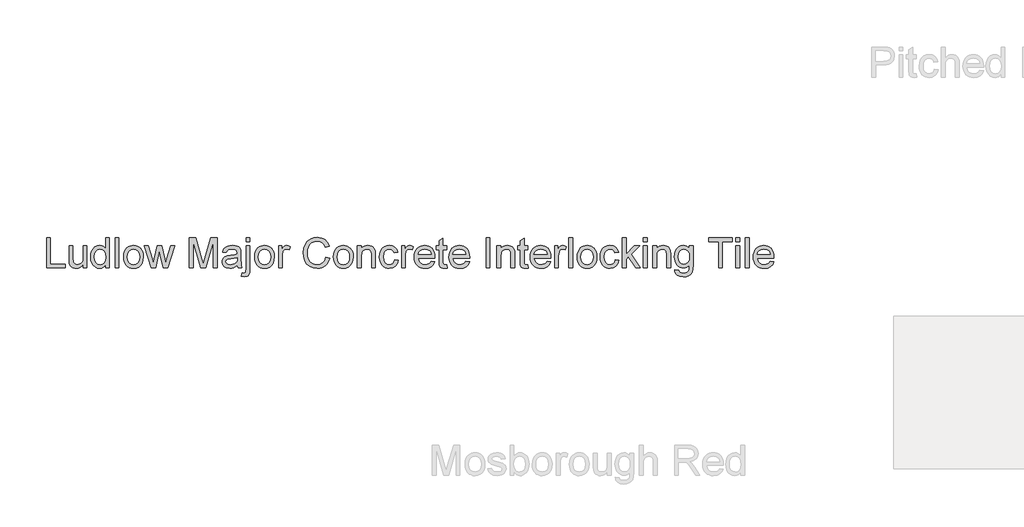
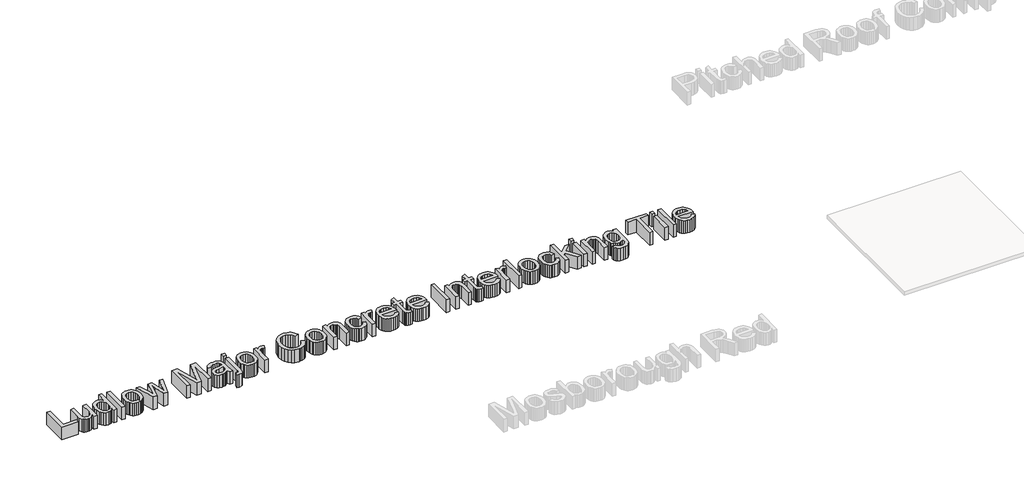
# One storey, part 4 of 6: 1 proxy.
"""IFC4 building model written with IfcOpenShell, lengths in millimetres."""

import ifcopenshell
import ifcopenshell.guid

model = None  # the IFC model being written
_history = None  # IfcOwnerHistory: only IFC2X3 demands one
_inside = {}  # id of a spatial element -> (the spatial element, [elements in it])
_under = {}  # id of a project, library or spatial element -> (it, [spatial elements below it])
_declared = {}  # id of a project -> (the project, [libraries it declares])
_typed = {}  # id of a type object -> (the type object, [elements of that type])
_made_of = {}  # id of a material, layer set ... -> (it, [elements and type objects made of it])


def new_model(schema):
    """Start an empty IFC model of exactly this schema.

    Asked for "IFC4X3", IfcOpenShell would pick the latest addendum, in which some entities
    have other attributes; the version numbers below select the first issue.
    IFC2X3 requires an IfcOwnerHistory on every rooted entity: one is made here for all.
    """
    global model, _history
    if schema == "IFC4X3":
        model = ifcopenshell.file(schema_version=(4, 3, 0, 0))
    else:
        model = ifcopenshell.file(schema=schema)
    _inside.clear()
    _under.clear()
    _declared.clear()
    _typed.clear()
    _made_of.clear()
    _history = None
    if model.schema == "IFC2X3":
        org = make("IfcOrganization", Name="unknown")
        user = make(
            "IfcPersonAndOrganization",
            ThePerson=make("IfcPerson", FamilyName="unknown"),
            TheOrganization=org,
        )
        app = make(
            "IfcApplication",
            ApplicationDeveloper=org,
            Version="unknown",
            ApplicationFullName="unknown",
            ApplicationIdentifier="unknown",
        )
        _history = make(
            "IfcOwnerHistory",
            OwningUser=user,
            OwningApplication=app,
            ChangeAction="ADDED",
            CreationDate=0,
        )
    return model


def make(cls, **values):
    """One entity of the class cls with the attributes given. An attribute that is None is left unset."""
    return model.create_entity(
        cls, **{name: value for name, value in values.items() if value is not None}
    )


def rooted(cls, **values):
    """An entity with a GlobalId (a new one), such as an element, a storey or a relation."""
    return make(cls, GlobalId=ifcopenshell.guid.new(), OwnerHistory=_history, **values)


def si_unit(unit_type, name, prefix=None):
    """IfcSIUnit, for example si_unit("LENGTHUNIT", "METRE", prefix="MILLI")."""
    return make("IfcSIUnit", UnitType=unit_type, Prefix=prefix, Name=name)


def assignment(units):
    """IfcUnitAssignment: the units of a project."""
    return None if units is None else make("IfcUnitAssignment", Units=units)


def point(xyz):
    """IfcCartesianPoint."""
    return None if xyz is None else make("IfcCartesianPoint", Coordinates=xyz)


def direction(xyz):
    """IfcDirection."""
    return None if xyz is None else make("IfcDirection", DirectionRatios=xyz)


def frame(location, z_axis=None, x_axis=None):
    """IfcAxis2Placement3D, a coordinate frame: its origin and axes. An axis left out is left unset."""
    return make(
        "IfcAxis2Placement3D",
        Location=point(location),
        Axis=direction(z_axis),
        RefDirection=direction(x_axis),
    )


def origin():
    """The frame at (0, 0, 0) with its axes left unset."""
    return frame((0.0, 0.0, 0.0))


def place(relative_to, where):
    """IfcLocalPlacement: puts the frame where relative to a parent placement (None: the world)."""
    return make(
        "IfcLocalPlacement", PlacementRelTo=relative_to, RelativePlacement=where
    )


def context(
    kind, dimensions, precision=None, world=None, true_north=None, identifier=None
):
    """IfcGeometricRepresentationContext, for example the 3D "Model" context."""
    return make(
        "IfcGeometricRepresentationContext",
        ContextIdentifier=identifier,
        ContextType=kind,
        CoordinateSpaceDimension=dimensions,
        Precision=precision,
        WorldCoordinateSystem=world,
        TrueNorth=true_north,
    )


def project(units=None, contexts=None):
    """IfcProject with its units and contexts."""
    return rooted(
        "IfcProject",
        Name="project",
        RepresentationContexts=contexts,
        UnitsInContext=assignment(units),
    )


def spatial(cls, under=None, at=None, **own):
    """A site, building, storey or space (cls), placed at a placement, below another one or the project."""
    s = rooted(cls, ObjectPlacement=at, **own)
    if under is not None:
        _under.setdefault(under.id(), (under, []))[1].append(s)
    return s


def polyline(points):
    """IfcPolyline through the points."""
    return make("IfcPolyline", Points=[point(p) for p in points])


def outline(outer, holes=None, kind="AREA"):
    """IfcArbitraryClosedProfileDef: a profile drawn as a closed curve; with holes, ...WithVoids."""
    if holes is None:
        return make("IfcArbitraryClosedProfileDef", ProfileType=kind, OuterCurve=outer)
    return make(
        "IfcArbitraryProfileDefWithVoids",
        ProfileType=kind,
        OuterCurve=outer,
        InnerCurves=holes,
    )


def extrude(swept, where, along, depth):
    """IfcExtrudedAreaSolid: the profile swept, set in the frame where, extruded along a direction by depth."""
    return make(
        "IfcExtrudedAreaSolid",
        SweptArea=swept,
        Position=where,
        ExtrudedDirection=direction(along),
        Depth=depth,
    )


def shape(context_of_items, identifier, shape_type, items):
    """IfcShapeRepresentation: the items that make up one representation, for example the "Body"."""
    return make(
        "IfcShapeRepresentation",
        ContextOfItems=context_of_items,
        RepresentationIdentifier=identifier,
        RepresentationType=shape_type,
        Items=items,
    )


def made_of(thing, what):
    """Note that an element or type object is made of a material, layer set ...; save() writes the relation."""
    if what is not None:
        _made_of.setdefault(what.id(), (what, []))[1].append(thing)
    return thing


def element(
    cls,
    number,
    at=None,
    inside=None,
    cuts=None,
    type_object=None,
    material=None,
    context=None,
    identifier="Body",
    shape_type=None,
    held_by="IfcProductDefinitionShape",
    body=None,
    shapes=None,
    **own,
):
    """One element of the class cls, such as IfcWall. Its Tag is "e" and its number.

    at: its placement. inside: the storey or other place that contains it. cuts: it is an
    opening in that element (IfcRelVoidsElement). A single representation is given by context,
    identifier, shape_type and body (its items); several are given by shapes. held_by: the class
    of the entity that holds the representations. save() writes the other relations.
    """
    e = rooted(cls, Tag="e%d" % number, ObjectPlacement=at, **own)
    if body is not None:
        shapes = [shape(context, identifier, shape_type, body)]
    if shapes is not None:
        e.Representation = make(held_by, Representations=shapes)
    if inside is not None:
        _inside.setdefault(inside.id(), (inside, []))[1].append(e)
    if cuts is not None:
        rooted(
            "IfcRelVoidsElement", RelatingBuildingElement=cuts, RelatedOpeningElement=e
        )
    if type_object is not None:
        _typed.setdefault(type_object.id(), (type_object, []))[1].append(e)
    return made_of(e, material)


def aggregate(whole, parts):
    """IfcRelAggregates: a whole, such as a stair, and the parts it consists of."""
    return rooted("IfcRelAggregates", RelatingObject=whole, RelatedObjects=parts)


def save(model, path):
    """Write the relations noted so far, then the file.

    IfcRelAggregates (storeys below a building ...), IfcRelContainedInSpatialStructure (elements
    in a storey), IfcRelDefinesByType, IfcRelAssociatesMaterial and IfcRelDeclares: one each for
    every whole, place, type object, material and project.
    """
    for whole, parts in _under.values():
        aggregate(whole, parts)
    for where, things in _inside.values():
        rooted(
            "IfcRelContainedInSpatialStructure",
            RelatedElements=things,
            RelatingStructure=where,
        )
    for kind, things in _typed.values():
        rooted("IfcRelDefinesByType", RelatedObjects=things, RelatingType=kind)
    for what, things in _made_of.values():
        rooted("IfcRelAssociatesMaterial", RelatedObjects=things, RelatingMaterial=what)
    for by, libraries in _declared.values():
        rooted("IfcRelDeclares", RelatingContext=by, RelatedDefinitions=libraries)
    model.write(path)


model = new_model("IFC4")

# Units and contexts
model_context = context("Model", 3, world=origin())
ifc_project = project(units=[si_unit("LENGTHUNIT", "METRE", prefix="MILLI")], contexts=[model_context])

# Site, building, storey
site = spatial("IfcSite", under=ifc_project)
building = spatial("IfcBuilding", under=site)
storey = spatial("IfcBuildingStorey", under=building, Name="Marley Concrete Interlocking", Elevation=3000.0)

# Proxy
placement = place(None, origin())
element("IfcBuildingElementProxy", 1, Name="600mm Arial", ObjectType="600mm Arial", at=placement, inside=storey, context=model_context, shape_type="SweptSolid", body=[
    extrude(outline(polyline([(-19505.0201372, 5396.4491151), (-19505.0201372, 5691.8337304), (-19468.0970603, 5691.8337304), (-19468.0970603, 5433.372192), (-19320.4047526, 5433.372192), (-19320.4047526, 5396.4491151), (-19505.0201372, 5396.4491151)])), frame((0.0, 0.0, 3000.0), z_axis=(0.0, 0.0, 1.0), x_axis=(1.0, 0.0, 0.0)), (0.0, 0.0, 1.0), 150.0),
    extrude(outline(polyline([(-19145.0201372, 5396.4491151), (-19145.0201372, 5433.7327689), (-19158.3795122, 5415.4019396), (-19173.9384064, 5402.3084901), (-19191.6968199, 5394.4524203), (-19211.6547526, 5391.8337304), (-19229.6385266, 5393.6726727), (-19246.3783103, 5399.1894997), (-19260.4227814, 5407.4827689), (-19270.320618, 5417.6510381), (-19281.3182141, 5444.8385381), (-19283.4816756, 5479.1654612), (-19283.4816756, 5613.372192), (-19246.5585987, 5613.372192), (-19246.5585987, 5496.5452689), (-19244.3230218, 5458.9010381), (-19238.9414112, 5446.3439468), (-19229.7196564, 5436.7976727), (-19217.2707381, 5430.7670237), (-19202.2076372, 5428.7568074), (-19186.2791516, 5430.8120958), (-19171.3783103, 5436.9779612), (-19159.0916516, 5446.6864949), (-19151.0057141, 5459.3697881), (-19146.5165314, 5476.7405814), (-19145.0201372, 5500.5116151), (-19145.0201372, 5613.372192), (-19108.0970603, 5613.372192), (-19108.0970603, 5396.4491151), (-19145.0201372, 5396.4491151)])), frame((0.0, 0.0, 3000.0), z_axis=(0.0, 0.0, 1.0), x_axis=(1.0, 0.0, 0.0)), (0.0, 0.0, 1.0), 150.0),
    extrude(outline(polyline([(-18923.4816756, 5396.4491151), (-18923.4816756, 5431.2808458), (-18934.5288511, 5414.0227328), (-18947.9107622, 5401.6955093), (-18963.6274088, 5394.2991752), (-18981.678791, 5391.8337304), (-19005.5489833, 5395.403442), (-19027.3999449, 5406.1125766), (-19045.897541, 5423.2129372), (-19059.7076372, 5445.9563266), (-19068.3073968, 5473.4232737), (-19071.1739833, 5504.6943074), (-19068.5327574, 5535.5777208), (-19060.6090795, 5563.4683458), (-19047.4119641, 5586.7796439), (-19028.9504256, 5603.9250766), (-19006.6216997, 5614.4719516), (-18981.8230218, 5617.9875766), (-18963.758118, 5615.4725526), (-18947.7845603, 5607.9274804), (-18934.2448968, 5596.3619756), (-18923.4816756, 5581.7856535), (-18923.4816756, 5691.8337304), (-18886.5585987, 5691.8337304), (-18886.5585987, 5396.4491151), (-18923.4816756, 5396.4491151)]), holes=[polyline([(-19034.2509064, 5504.8385381), (-19030.086243, 5471.4401006), (-19017.5922526, 5447.6870958), (-18999.4372045, 5433.4893795), (-18978.289368, 5428.7568074), (-18957.1505458, 5433.2730333), (-18939.4552333, 5446.8217112), (-18927.4750651, 5469.6552449), (-18923.4816756, 5502.0260381), (-18927.5471805, 5537.4166631), (-18939.7436949, 5561.9539227), (-18957.8897285, 5576.2868554), (-18979.803791, 5581.0644997), (-19001.1679737, 5576.4761583), (-19018.6739833, 5562.7111343), (-19030.3566756, 5539.0663026), (-19034.2509064, 5504.8385381)])]), frame((0.0, 0.0, 3000.0), z_axis=(0.0, 0.0, 1.0), x_axis=(1.0, 0.0, 0.0)), (0.0, 0.0, 1.0), 150.0),
    extrude(outline(polyline([(-18831.1739833, 5396.4491151), (-18831.1739833, 5691.8337304), (-18794.2509064, 5691.8337304), (-18794.2509064, 5396.4491151), (-18831.1739833, 5396.4491151)])), frame((0.0, 0.0, 3000.0), z_axis=(0.0, 0.0, 1.0), x_axis=(1.0, 0.0, 0.0)), (0.0, 0.0, 1.0), 150.0),
    extrude(outline(polyline([(-18748.0970603, 5504.9106535), (-18746.1003655, 5533.004103), (-18740.1102814, 5557.2123362), (-18730.1268079, 5577.535353), (-18716.1499449, 5593.9731535), (-18702.0784305, 5604.4794636), (-18686.5465795, 5611.9839708), (-18669.554392, 5616.4866752), (-18651.101868, 5617.9875766), (-18630.7315254, 5616.1599023), (-18612.3128055, 5610.6768795), (-18595.8457081, 5601.5385081), (-18581.3302333, 5588.7447881), (-18569.4830278, 5572.7284119), (-18561.0207381, 5553.9220718), (-18555.9433643, 5532.3257677), (-18554.2509064, 5507.9394997), (-18557.2436949, 5470.637817), (-18566.2220603, 5442.2423843), (-18580.9245843, 5420.9773602), (-18601.0898487, 5405.0669035), (-18625.0411708, 5395.1420237), (-18651.101868, 5391.8337304), (-18671.7696865, 5393.6546439), (-18690.3596805, 5399.1173843), (-18706.8718499, 5408.2219516), (-18721.3061949, 5420.9683458), (-18733.0271985, 5437.1402208), (-18741.3993439, 5456.5212304), (-18746.4226312, 5479.1113747), (-18748.0970603, 5504.9106535)]), holes=[polyline([(-18711.1739833, 5504.9827689), (-18706.9011468, 5471.5663026), (-18694.0826372, 5447.7592112), (-18674.7917718, 5433.5074083), (-18651.101868, 5428.7568074), (-18627.5201372, 5433.5344516), (-18608.2653295, 5447.8673843), (-18595.4468199, 5471.9899804), (-18591.1739833, 5506.1366151), (-18595.4738631, 5538.5795237), (-18608.3735026, 5562.0620958), (-18627.6553535, 5576.3138987), (-18651.101868, 5581.0644997), (-18674.7917718, 5576.3319276), (-18694.0826372, 5562.1342112), (-18706.9011468, 5538.3812064), (-18711.1739833, 5504.9827689)])]), frame((0.0, 0.0, 3000.0), z_axis=(0.0, 0.0, 1.0), x_axis=(1.0, 0.0, 0.0)), (0.0, 0.0, 1.0), 150.0),
    extrude(outline(polyline([(-18476.726868, 5396.4491151), (-18542.7124449, 5613.372192), (-18504.3470603, 5613.372192), (-18466.9191756, 5486.809692), (-18455.741291, 5441.5933458), (-18446.5826372, 5485.1510381), (-18416.7989833, 5613.372192), (-18372.8085987, 5613.372192), (-18343.1691756, 5485.5116151), (-18335.0201372, 5446.0644997), (-18323.3374449, 5487.6750766), (-18285.8374449, 5613.372192), (-18247.3278295, 5613.372192), (-18313.8182141, 5396.4491151), (-18358.4576372, 5396.4491151), (-18386.7989833, 5523.6606535), (-18395.0201372, 5563.3241151), (-18431.5826372, 5396.4491151), (-18476.726868, 5396.4491151)])), frame((0.0, 0.0, 3000.0), z_axis=(0.0, 0.0, 1.0), x_axis=(1.0, 0.0, 0.0)), (0.0, 0.0, 1.0), 150.0),
    extrude(outline(polyline([(-18101.9432141, 5396.4491151), (-18101.9432141, 5691.8337304), (-18038.4095603, 5691.8337304), (-17977.976868, 5483.6366151), (-17965.789368, 5440.1510381), (-17952.5922526, 5487.2423843), (-17893.1691756, 5691.8337304), (-17829.6355218, 5691.8337304), (-17829.6355218, 5396.4491151), (-17866.5585987, 5396.4491151), (-17866.5585987, 5654.9106535), (-17940.7653295, 5396.4491151), (-17990.8134064, 5396.4491151), (-18065.0201372, 5654.9106535), (-18065.0201372, 5396.4491151), (-18101.9432141, 5396.4491151)])), frame((0.0, 0.0, 3000.0), z_axis=(0.0, 0.0, 1.0), x_axis=(1.0, 0.0, 0.0)), (0.0, 0.0, 1.0), 150.0),
    extrude(outline(polyline([(-17631.1739833, 5424.1414227), (-17648.8152093, 5409.0152208), (-17666.9792718, 5399.1173843), (-17686.0808343, 5393.6546439), (-17706.5345603, 5391.8337304), (-17737.3909305, 5396.2147401), (-17760.1523487, 5409.3577689), (-17774.1878055, 5429.3157016), (-17778.866291, 5454.1414227), (-17777.0994641, 5469.4479131), (-17771.7989833, 5483.3481535), (-17763.6229016, 5495.247192), (-17753.2292718, 5504.5500766), (-17727.3759064, 5516.6654612), (-17695.428791, 5522.2183458), (-17657.6763872, 5528.059692), (-17631.3903295, 5534.9106535), (-17631.1739833, 5543.1318074), (-17633.7160506, 5559.6101727), (-17641.3422526, 5570.3914227), (-17658.397541, 5578.3962304), (-17682.1595603, 5581.0644997), (-17704.1547526, 5579.2886583), (-17719.5153295, 5573.9611343), (-17729.9900891, 5564.1083699), (-17737.3278295, 5548.7568074), (-17774.2509064, 5553.372192), (-17767.8416516, 5573.5644997), (-17758.2773487, 5589.4298843), (-17744.6655699, 5601.5632977), (-17726.1138872, 5610.559692), (-17703.4245843, 5616.1306054), (-17677.3999449, 5617.9875766), (-17652.4390074, 5616.3469516), (-17632.6523487, 5611.4250766), (-17617.7334785, 5604.0242352), (-17607.3759064, 5594.9467112), (-17600.506916, 5583.7237545), (-17596.053791, 5569.8866151), (-17594.2509064, 5537.5789227), (-17594.2509064, 5491.6414227), (-17592.3759064, 5427.4947881), (-17585.0201372, 5396.4491151), (-17621.9432141, 5396.4491151), (-17631.1739833, 5424.1414227)]), holes=[polyline([(-17631.1739833, 5497.9875766), (-17690.741291, 5486.6654612), (-17722.508118, 5480.6798843), (-17736.8951372, 5470.9443074), (-17741.9432141, 5456.7375766), (-17739.1938151, 5445.7580093), (-17730.945618, 5436.7616151), (-17717.3789112, 5430.7580093), (-17698.6739833, 5428.7568074), (-17678.8422526, 5430.965341), (-17661.3182141, 5437.590942), (-17647.1114833, 5447.3535622), (-17637.2316756, 5458.9731535), (-17632.850666, 5470.9443074), (-17631.3903295, 5487.5308458), (-17631.1739833, 5497.9875766)])]), frame((0.0, 0.0, 3000.0), z_axis=(0.0, 0.0, 1.0), x_axis=(1.0, 0.0, 0.0)), (0.0, 0.0, 1.0), 150.0),
    extrude(outline(polyline([(-17589.9960987, 5313.2279612), (-17582.2076372, 5348.3481535), (-17565.2605218, 5345.6798843), (-17555.6421324, 5347.5098122), (-17548.8542718, 5352.9995958), (-17544.8248247, 5365.809091), (-17543.4816756, 5389.5981535), (-17543.4816756, 5613.372192), (-17506.5585987, 5613.372192), (-17506.5585987, 5384.8385381), (-17509.1727814, 5350.9443074), (-17517.0153295, 5329.1654612), (-17524.7497045, 5320.2366752), (-17534.6835987, 5313.8589708), (-17561.1499449, 5308.7568074), (-17589.9960987, 5313.2279612)])), frame((0.0, 0.0, 3000.0), z_axis=(0.0, 0.0, 1.0), x_axis=(1.0, 0.0, 0.0)), (0.0, 0.0, 1.0), 150.0),
    extrude(outline(polyline([(-17543.4816756, 5654.9106535), (-17543.4816756, 5691.8337304), (-17506.5585987, 5691.8337304), (-17506.5585987, 5654.9106535), (-17543.4816756, 5654.9106535)])), frame((0.0, 0.0, 3000.0), z_axis=(0.0, 0.0, 1.0), x_axis=(1.0, 0.0, 0.0)), (0.0, 0.0, 1.0), 150.0),
    extrude(outline(polyline([(-17460.4047526, 5504.9106535), (-17458.4080579, 5533.004103), (-17452.4179737, 5557.2123362), (-17442.4345002, 5577.535353), (-17428.4576372, 5593.9731535), (-17414.3861228, 5604.4794636), (-17398.8542718, 5611.9839708), (-17381.8620843, 5616.4866752), (-17363.4095603, 5617.9875766), (-17343.0392177, 5616.1599023), (-17324.6204978, 5610.6768795), (-17308.1534004, 5601.5385081), (-17293.6379256, 5588.7447881), (-17281.7907201, 5572.7284119), (-17273.3284305, 5553.9220718), (-17268.2510567, 5532.3257677), (-17266.5585987, 5507.9394997), (-17269.5513872, 5470.637817), (-17278.5297526, 5442.2423843), (-17293.2322766, 5420.9773602), (-17313.397541, 5405.0669035), (-17337.3488631, 5395.1420237), (-17363.4095603, 5391.8337304), (-17384.0773788, 5393.6546439), (-17402.6673728, 5399.1173843), (-17419.1795422, 5408.2219516), (-17433.6138872, 5420.9683458), (-17445.3348908, 5437.1402208), (-17453.7070362, 5456.5212304), (-17458.7303235, 5479.1113747), (-17460.4047526, 5504.9106535)]), holes=[polyline([(-17423.4816756, 5504.9827689), (-17419.2088391, 5471.5663026), (-17406.3903295, 5447.7592112), (-17387.0994641, 5433.5074083), (-17363.4095603, 5428.7568074), (-17339.8278295, 5433.5344516), (-17320.5730218, 5447.8673843), (-17307.7545122, 5471.9899804), (-17303.4816756, 5506.1366151), (-17307.7815555, 5538.5795237), (-17320.6811949, 5562.0620958), (-17339.9630458, 5576.3138987), (-17363.4095603, 5581.0644997), (-17387.0994641, 5576.3319276), (-17406.3903295, 5562.1342112), (-17419.2088391, 5538.3812064), (-17423.4816756, 5504.9827689)])]), frame((0.0, 0.0, 3000.0), z_axis=(0.0, 0.0, 1.0), x_axis=(1.0, 0.0, 0.0)), (0.0, 0.0, 1.0), 150.0),
    extrude(outline(polyline([(-17225.0201372, 5396.4491151), (-17225.0201372, 5613.372192), (-17192.7124449, 5613.372192), (-17192.7124449, 5581.2808458), (-17180.7773487, 5599.8866151), (-17169.7797526, 5610.8481535), (-17158.7460987, 5616.2027208), (-17146.7028295, 5617.9875766), (-17128.3134064, 5615.1390189), (-17109.6355218, 5606.5933458), (-17121.9672526, 5573.4923843), (-17134.9480218, 5579.1714708), (-17147.928791, 5581.0644997), (-17158.9534305, 5579.2435862), (-17168.8061949, 5573.7808458), (-17176.7659305, 5565.090942), (-17182.1114833, 5553.5885381), (-17186.600666, 5532.9635381), (-17188.0970603, 5510.4635381), (-17188.0970603, 5396.4491151), (-17225.0201372, 5396.4491151)])), frame((0.0, 0.0, 3000.0), z_axis=(0.0, 0.0, 1.0), x_axis=(1.0, 0.0, 0.0)), (0.0, 0.0, 1.0), 150.0),
    extrude(outline(polyline([(-16758.866291, 5501.4491151), (-16721.9432141, 5491.9298843), (-16729.249404, 5468.9678951), (-16738.9804737, 5448.9040429), (-16751.1364232, 5431.7383278), (-16765.7172526, 5417.4707497), (-16782.3939353, 5406.2545538), (-16800.8374449, 5398.2429852), (-16821.0477814, 5393.4360441), (-16843.0249449, 5391.8337304), (-16885.8524689, 5396.6834901), (-16919.8638872, 5411.2327689), (-16945.9335987, 5434.9767593), (-16964.9360026, 5467.4106535), (-16976.5375651, 5505.5416631), (-16980.4047526, 5546.3769997), (-16976.0327574, 5589.4479131), (-16962.9167718, 5626.6414227), (-16941.741892, 5656.7766391), (-16913.1932141, 5678.6726727), (-16879.335041, 5692.0050045), (-16842.2316756, 5696.4491151), (-16801.7479016, 5690.6979131), (-16784.1359725, 5683.5089107), (-16768.2773487, 5673.4443074), (-16754.4334485, 5660.7700285), (-16742.8656901, 5645.7519997), (-16726.5585987, 5608.684692), (-16763.4816756, 5599.8866151), (-16776.2821564, 5626.8126968), (-16793.7701372, 5645.2832497), (-16816.1619641, 5655.965341), (-16843.6739833, 5659.5260381), (-16875.3867237, 5655.5777208), (-16901.4384064, 5643.7327689), (-16921.2070362, 5625.2351727), (-16934.070618, 5601.3289227), (-16941.1289112, 5574.3036824), (-16943.4816756, 5546.4491151), (-16940.6962189, 5512.3385381), (-16932.3398487, 5482.8433458), (-16918.0970603, 5459.090341), (-16897.6523487, 5442.2063266), (-16873.1421324, 5432.1191872), (-16846.7028295, 5428.7568074), (-16815.882517, 5433.3361343), (-16790.2004256, 5447.0741151), (-16770.8104016, 5469.8265189), (-16758.866291, 5501.4491151)])), frame((0.0, 0.0, 3000.0), z_axis=(0.0, 0.0, 1.0), x_axis=(1.0, 0.0, 0.0)), (0.0, 0.0, 1.0), 150.0),
    extrude(outline(polyline([(-16685.0201372, 5504.9106535), (-16683.0234425, 5533.004103), (-16677.0333583, 5557.2123362), (-16667.0498848, 5577.535353), (-16653.0730218, 5593.9731535), (-16639.0015074, 5604.4794636), (-16623.4696564, 5611.9839708), (-16606.4774689, 5616.4866752), (-16588.0249449, 5617.9875766), (-16567.6546023, 5616.1599023), (-16549.2358824, 5610.6768795), (-16532.768785, 5601.5385081), (-16518.2533103, 5588.7447881), (-16506.4061047, 5572.7284119), (-16497.9438151, 5553.9220718), (-16492.8664413, 5532.3257677), (-16491.1739833, 5507.9394997), (-16494.1667718, 5470.637817), (-16503.1451372, 5442.2423843), (-16517.8476612, 5420.9773602), (-16538.0129256, 5405.0669035), (-16561.9642478, 5395.1420237), (-16588.0249449, 5391.8337304), (-16608.6927634, 5393.6546439), (-16627.2827574, 5399.1173843), (-16643.7949268, 5408.2219516), (-16658.2292718, 5420.9683458), (-16669.9502754, 5437.1402208), (-16678.3224208, 5456.5212304), (-16683.3457081, 5479.1113747), (-16685.0201372, 5504.9106535)]), holes=[polyline([(-16648.0970603, 5504.9827689), (-16643.8242237, 5471.5663026), (-16631.0057141, 5447.7592112), (-16611.7148487, 5433.5074083), (-16588.0249449, 5428.7568074), (-16564.4432141, 5433.5344516), (-16545.1884064, 5447.8673843), (-16532.3698968, 5471.9899804), (-16528.0970603, 5506.1366151), (-16532.3969401, 5538.5795237), (-16545.2965795, 5562.0620958), (-16564.5784305, 5576.3138987), (-16588.0249449, 5581.0644997), (-16611.7148487, 5576.3319276), (-16631.0057141, 5562.1342112), (-16643.8242237, 5538.3812064), (-16648.0970603, 5504.9827689)])]), frame((0.0, 0.0, 3000.0), z_axis=(0.0, 0.0, 1.0), x_axis=(1.0, 0.0, 0.0)), (0.0, 0.0, 1.0), 150.0),
    extrude(outline(polyline([(-16449.6355218, 5396.4491151), (-16449.6355218, 5613.372192), (-16412.7124449, 5613.372192), (-16412.7124449, 5583.0837304), (-16399.8849208, 5598.3541631), (-16384.4792718, 5609.2616151), (-16366.4954978, 5615.8060862), (-16345.9335987, 5617.9875766), (-16327.7334785, 5616.2297641), (-16311.0658103, 5610.9563266), (-16297.1655699, 5602.825317), (-16287.2677333, 5592.4947881), (-16276.1980218, 5565.3433458), (-16274.2509064, 5529.6462304), (-16274.2509064, 5396.4491151), (-16311.1739833, 5396.4491151), (-16311.1739833, 5524.6702689), (-16315.428791, 5557.3385381), (-16321.3152093, 5567.0651006), (-16330.4648487, 5574.6101727), (-16342.1926131, 5579.4509179), (-16355.8134064, 5581.0644997), (-16377.4390074, 5577.4407016), (-16395.8735026, 5566.5693074), (-16403.2405398, 5557.6946078), (-16408.5027093, 5545.5657016), (-16412.7124449, 5511.5452689), (-16412.7124449, 5396.4491151), (-16449.6355218, 5396.4491151)])), frame((0.0, 0.0, 3000.0), z_axis=(0.0, 0.0, 1.0), x_axis=(1.0, 0.0, 0.0)), (0.0, 0.0, 1.0), 150.0),
    extrude(outline(polyline([(-16085.0201372, 5474.9106535), (-16048.0970603, 5470.2952689), (-16058.3915314, 5437.4557256), (-16077.7364833, 5412.6390189), (-16104.3110026, 5397.0350526), (-16136.2941756, 5391.8337304), (-16157.0025591, 5393.6478831), (-16175.570017, 5399.090341), (-16191.9965494, 5408.1611042), (-16206.2821564, 5420.8601727), (-16217.8454076, 5436.9486643), (-16226.1048728, 5456.1876968), (-16231.0605518, 5478.5772701), (-16232.7124449, 5504.1173843), (-16229.8909305, 5536.9749564), (-16221.4263872, 5565.4515189), (-16207.1835987, 5588.4473122), (-16187.0273487, 5604.8625766), (-16162.913767, 5614.7063266), (-16136.7989833, 5617.9875766), (-16105.6000651, 5613.4803651), (-16080.6571564, 5599.9587304), (-16062.7635266, 5578.1438266), (-16052.7124449, 5548.7568074), (-16089.6355218, 5544.1414227), (-16096.3332381, 5560.2501968), (-16106.7629256, 5571.7976727), (-16120.3476612, 5578.7477929), (-16136.5105218, 5581.0644997), (-16160.3716997, 5576.5032016), (-16179.3110026, 5562.8193074), (-16191.6697766, 5539.2736343), (-16195.789368, 5505.1269997), (-16191.7599208, 5470.5206295), (-16179.6715795, 5446.8938266), (-16161.0748247, 5433.2910622), (-16137.5201372, 5428.7568074), (-16118.4005458, 5431.5873362), (-16102.7244641, 5440.0789227), (-16091.3212189, 5454.4479131), (-16085.0201372, 5474.9106535)])), frame((0.0, 0.0, 3000.0), z_axis=(0.0, 0.0, 1.0), x_axis=(1.0, 0.0, 0.0)), (0.0, 0.0, 1.0), 150.0),
    extrude(outline(polyline([(-16015.789368, 5396.4491151), (-16015.789368, 5613.372192), (-15983.4816756, 5613.372192), (-15983.4816756, 5581.2808458), (-15971.5465795, 5599.8866151), (-15960.5489833, 5610.8481535), (-15949.5153295, 5616.2027208), (-15937.4720603, 5617.9875766), (-15919.0826372, 5615.1390189), (-15900.4047526, 5606.5933458), (-15912.7364833, 5573.4923843), (-15925.7172526, 5579.1714708), (-15938.6980218, 5581.0644997), (-15949.7226612, 5579.2435862), (-15959.5754256, 5573.7808458), (-15967.5351612, 5565.090942), (-15972.8807141, 5553.5885381), (-15977.3698968, 5532.9635381), (-15978.866291, 5510.4635381), (-15978.866291, 5396.4491151), (-16015.789368, 5396.4491151)])), frame((0.0, 0.0, 3000.0), z_axis=(0.0, 0.0, 1.0), x_axis=(1.0, 0.0, 0.0)), (0.0, 0.0, 1.0), 150.0),
    extrude(outline(polyline([(-15725.4528295, 5461.0644997), (-15689.2509064, 5456.4491151), (-15702.2947766, 5429.1714708), (-15723.1090795, 5408.7808458), (-15751.2250651, 5396.0705093), (-15786.1739833, 5391.8337304), (-15809.0841396, 5393.6614047), (-15829.4973006, 5399.1444276), (-15847.4134665, 5408.282799), (-15862.8326372, 5421.0765189), (-15875.2319761, 5437.1695177), (-15884.0886468, 5456.2057256), (-15889.4026492, 5478.1851427), (-15891.1739833, 5503.1077689), (-15889.3846204, 5528.8754973), (-15884.0165314, 5551.5873362), (-15875.0697165, 5571.2432857), (-15862.5441756, 5587.8433458), (-15847.1655699, 5601.0314468), (-15829.6595603, 5610.4515189), (-15810.0261468, 5616.1035622), (-15788.2653295, 5617.9875766), (-15767.2053836, 5616.1080694), (-15748.1601612, 5610.4695477), (-15731.1296624, 5601.0720117), (-15716.1138872, 5587.9154612), (-15703.8565254, 5571.3514588), (-15695.101267, 5551.731567), (-15689.8481119, 5529.0557857), (-15688.0970603, 5503.3241151), (-15688.3134064, 5493.372192), (-15854.2509064, 5493.372192), (-15847.8596805, 5465.7339708), (-15833.0129256, 5445.4154612), (-15811.585642, 5432.9214708), (-15785.4528295, 5428.7568074), (-15765.8013872, 5430.6858939), (-15749.2509064, 5436.4731535), (-15735.8013872, 5446.4791631), (-15725.4528295, 5461.0644997)]), holes=[polyline([(-15854.2509064, 5530.2952689), (-15725.0201372, 5530.2952689), (-15730.0141276, 5549.8024804), (-15739.803791, 5563.7568074), (-15761.3302333, 5576.7375766), (-15788.4095603, 5581.0644997), (-15813.2983824, 5577.6119756), (-15833.8783103, 5567.2544035), (-15848.1841997, 5551.1095718), (-15854.2509064, 5530.2952689)])]), frame((0.0, 0.0, 3000.0), z_axis=(0.0, 0.0, 1.0), x_axis=(1.0, 0.0, 0.0)), (0.0, 0.0, 1.0), 150.0),
    extrude(outline(polyline([(-15572.7124449, 5427.2423843), (-15568.0970603, 5395.3673843), (-15595.7172526, 5391.8337304), (-15613.4396083, 5393.3661824), (-15626.6547526, 5397.9635381), (-15635.9936949, 5405.0488747), (-15642.0874449, 5414.0452689), (-15645.4408103, 5429.4959901), (-15646.5585987, 5455.9443074), (-15646.5585987, 5576.4491151), (-15674.2509064, 5576.4491151), (-15674.2509064, 5613.372192), (-15646.5585987, 5613.372192), (-15646.5585987, 5666.0885381), (-15609.6355218, 5687.7952689), (-15609.6355218, 5613.372192), (-15572.7124449, 5613.372192), (-15572.7124449, 5576.4491151), (-15609.6355218, 5576.4491151), (-15609.6355218, 5457.0260381), (-15607.6884064, 5437.9875766), (-15601.3783103, 5431.2447881), (-15588.7941756, 5428.7568074), (-15572.7124449, 5427.2423843)])), frame((0.0, 0.0, 3000.0), z_axis=(0.0, 0.0, 1.0), x_axis=(1.0, 0.0, 0.0)), (0.0, 0.0, 1.0), 150.0),
    extrude(outline(polyline([(-15383.914368, 5461.0644997), (-15347.7124449, 5456.4491151), (-15360.7563151, 5429.1714708), (-15381.570618, 5408.7808458), (-15409.6866035, 5396.0705093), (-15444.6355218, 5391.8337304), (-15467.545678, 5393.6614047), (-15487.9588391, 5399.1444276), (-15505.875005, 5408.282799), (-15521.2941756, 5421.0765189), (-15533.6935146, 5437.1695177), (-15542.5501853, 5456.2057256), (-15547.8641877, 5478.1851427), (-15549.6355218, 5503.1077689), (-15547.8461588, 5528.8754973), (-15542.4780699, 5551.5873362), (-15533.531255, 5571.2432857), (-15521.0057141, 5587.8433458), (-15505.6271083, 5601.0314468), (-15488.1210987, 5610.4515189), (-15468.4876853, 5616.1035622), (-15446.726868, 5617.9875766), (-15425.666922, 5616.1080694), (-15406.6216997, 5610.4695477), (-15389.5912009, 5601.0720117), (-15374.5754256, 5587.9154612), (-15362.3180639, 5571.3514588), (-15353.5628055, 5551.731567), (-15348.3096504, 5529.0557857), (-15346.5585987, 5503.3241151), (-15346.7749449, 5493.372192), (-15512.7124449, 5493.372192), (-15506.3212189, 5465.7339708), (-15491.4744641, 5445.4154612), (-15470.0471805, 5432.9214708), (-15443.914368, 5428.7568074), (-15424.2629256, 5430.6858939), (-15407.7124449, 5436.4731535), (-15394.2629256, 5446.4791631), (-15383.914368, 5461.0644997)]), holes=[polyline([(-15512.7124449, 5530.2952689), (-15383.4816756, 5530.2952689), (-15388.475666, 5549.8024804), (-15398.2653295, 5563.7568074), (-15419.7917718, 5576.7375766), (-15446.8710987, 5581.0644997), (-15471.7599208, 5577.6119756), (-15492.3398487, 5567.2544035), (-15506.6457381, 5551.1095718), (-15512.7124449, 5530.2952689)])]), frame((0.0, 0.0, 3000.0), z_axis=(0.0, 0.0, 1.0), x_axis=(1.0, 0.0, 0.0)), (0.0, 0.0, 1.0), 150.0),
    extrude(outline(polyline([(-15185.0201372, 5396.4491151), (-15185.0201372, 5691.8337304), (-15148.0970603, 5691.8337304), (-15148.0970603, 5396.4491151), (-15185.0201372, 5396.4491151)])), frame((0.0, 0.0, 3000.0), z_axis=(0.0, 0.0, 1.0), x_axis=(1.0, 0.0, 0.0)), (0.0, 0.0, 1.0), 150.0),
    extrude(outline(polyline([(-15078.866291, 5396.4491151), (-15078.866291, 5613.372192), (-15041.9432141, 5613.372192), (-15041.9432141, 5583.0837304), (-15029.1156901, 5598.3541631), (-15013.710041, 5609.2616151), (-14995.726267, 5615.8060862), (-14975.164368, 5617.9875766), (-14956.9642478, 5616.2297641), (-14940.2965795, 5610.9563266), (-14926.3963391, 5602.825317), (-14916.4985026, 5592.4947881), (-14905.428791, 5565.3433458), (-14903.4816756, 5529.6462304), (-14903.4816756, 5396.4491151), (-14940.4047526, 5396.4491151), (-14940.4047526, 5524.6702689), (-14944.6595603, 5557.3385381), (-14950.5459785, 5567.0651006), (-14959.695618, 5574.6101727), (-14971.4233824, 5579.4509179), (-14985.0441756, 5581.0644997), (-15006.6697766, 5577.4407016), (-15025.1042718, 5566.5693074), (-15032.4713091, 5557.6946078), (-15037.7334785, 5545.5657016), (-15041.9432141, 5511.5452689), (-15041.9432141, 5396.4491151), (-15078.866291, 5396.4491151)])), frame((0.0, 0.0, 3000.0), z_axis=(0.0, 0.0, 1.0), x_axis=(1.0, 0.0, 0.0)), (0.0, 0.0, 1.0), 150.0),
    extrude(outline(polyline([(-14774.2509064, 5427.2423843), (-14769.6355218, 5395.3673843), (-14797.2557141, 5391.8337304), (-14814.9780699, 5393.3661824), (-14828.1932141, 5397.9635381), (-14837.5321564, 5405.0488747), (-14843.6259064, 5414.0452689), (-14846.9792718, 5429.4959901), (-14848.0970603, 5455.9443074), (-14848.0970603, 5576.4491151), (-14875.789368, 5576.4491151), (-14875.789368, 5613.372192), (-14848.0970603, 5613.372192), (-14848.0970603, 5666.0885381), (-14811.1739833, 5687.7952689), (-14811.1739833, 5613.372192), (-14774.2509064, 5613.372192), (-14774.2509064, 5576.4491151), (-14811.1739833, 5576.4491151), (-14811.1739833, 5457.0260381), (-14809.226868, 5437.9875766), (-14802.9167718, 5431.2447881), (-14790.3326372, 5428.7568074), (-14774.2509064, 5427.2423843)])), frame((0.0, 0.0, 3000.0), z_axis=(0.0, 0.0, 1.0), x_axis=(1.0, 0.0, 0.0)), (0.0, 0.0, 1.0), 150.0),
    extrude(outline(polyline([(-14585.4528295, 5461.0644997), (-14549.2509064, 5456.4491151), (-14562.2947766, 5429.1714708), (-14583.1090795, 5408.7808458), (-14611.2250651, 5396.0705093), (-14646.1739833, 5391.8337304), (-14669.0841396, 5393.6614047), (-14689.4973006, 5399.1444276), (-14707.4134665, 5408.282799), (-14722.8326372, 5421.0765189), (-14735.2319761, 5437.1695177), (-14744.0886468, 5456.2057256), (-14749.4026492, 5478.1851427), (-14751.1739833, 5503.1077689), (-14749.3846204, 5528.8754973), (-14744.0165314, 5551.5873362), (-14735.0697165, 5571.2432857), (-14722.5441756, 5587.8433458), (-14707.1655699, 5601.0314468), (-14689.6595603, 5610.4515189), (-14670.0261468, 5616.1035622), (-14648.2653295, 5617.9875766), (-14627.2053836, 5616.1080694), (-14608.1601612, 5610.4695477), (-14591.1296624, 5601.0720117), (-14576.1138872, 5587.9154612), (-14563.8565254, 5571.3514588), (-14555.101267, 5551.731567), (-14549.8481119, 5529.0557857), (-14548.0970603, 5503.3241151), (-14548.3134064, 5493.372192), (-14714.2509064, 5493.372192), (-14707.8596805, 5465.7339708), (-14693.0129256, 5445.4154612), (-14671.585642, 5432.9214708), (-14645.4528295, 5428.7568074), (-14625.8013872, 5430.6858939), (-14609.2509064, 5436.4731535), (-14595.8013872, 5446.4791631), (-14585.4528295, 5461.0644997)]), holes=[polyline([(-14714.2509064, 5530.2952689), (-14585.0201372, 5530.2952689), (-14590.0141276, 5549.8024804), (-14599.803791, 5563.7568074), (-14621.3302333, 5576.7375766), (-14648.4095603, 5581.0644997), (-14673.2983824, 5577.6119756), (-14693.8783103, 5567.2544035), (-14708.1841997, 5551.1095718), (-14714.2509064, 5530.2952689)])]), frame((0.0, 0.0, 3000.0), z_axis=(0.0, 0.0, 1.0), x_axis=(1.0, 0.0, 0.0)), (0.0, 0.0, 1.0), 150.0),
    extrude(outline(polyline([(-14511.1739833, 5396.4491151), (-14511.1739833, 5613.372192), (-14478.866291, 5613.372192), (-14478.866291, 5581.2808458), (-14466.9311949, 5599.8866151), (-14455.9335987, 5610.8481535), (-14444.8999449, 5616.2027208), (-14432.8566756, 5617.9875766), (-14414.4672526, 5615.1390189), (-14395.789368, 5606.5933458), (-14408.1210987, 5573.4923843), (-14421.101868, 5579.1714708), (-14434.0826372, 5581.0644997), (-14445.1072766, 5579.2435862), (-14454.960041, 5573.7808458), (-14462.9197766, 5565.090942), (-14468.2653295, 5553.5885381), (-14472.7545122, 5532.9635381), (-14474.2509064, 5510.4635381), (-14474.2509064, 5396.4491151), (-14511.1739833, 5396.4491151)])), frame((0.0, 0.0, 3000.0), z_axis=(0.0, 0.0, 1.0), x_axis=(1.0, 0.0, 0.0)), (0.0, 0.0, 1.0), 150.0),
    extrude(outline(polyline([(-14372.7124449, 5396.4491151), (-14372.7124449, 5691.8337304), (-14335.789368, 5691.8337304), (-14335.789368, 5396.4491151), (-14372.7124449, 5396.4491151)])), frame((0.0, 0.0, 3000.0), z_axis=(0.0, 0.0, 1.0), x_axis=(1.0, 0.0, 0.0)), (0.0, 0.0, 1.0), 150.0),
    extrude(outline(polyline([(-14289.6355218, 5504.9106535), (-14287.6388271, 5533.004103), (-14281.648743, 5557.2123362), (-14271.6652694, 5577.535353), (-14257.6884064, 5593.9731535), (-14243.616892, 5604.4794636), (-14228.085041, 5611.9839708), (-14211.0928535, 5616.4866752), (-14192.6403295, 5617.9875766), (-14172.2699869, 5616.1599023), (-14153.851267, 5610.6768795), (-14137.3841696, 5601.5385081), (-14122.8686949, 5588.7447881), (-14111.0214893, 5572.7284119), (-14102.5591997, 5553.9220718), (-14097.4818259, 5532.3257677), (-14095.789368, 5507.9394997), (-14098.7821564, 5470.637817), (-14107.7605218, 5442.2423843), (-14122.4630458, 5420.9773602), (-14142.6283103, 5405.0669035), (-14166.5796324, 5395.1420237), (-14192.6403295, 5391.8337304), (-14213.308148, 5393.6546439), (-14231.898142, 5399.1173843), (-14248.4103115, 5408.2219516), (-14262.8446564, 5420.9683458), (-14274.56566, 5437.1402208), (-14282.9378055, 5456.5212304), (-14287.9610927, 5479.1113747), (-14289.6355218, 5504.9106535)]), holes=[polyline([(-14252.7124449, 5504.9827689), (-14248.4396083, 5471.5663026), (-14235.6210987, 5447.7592112), (-14216.3302333, 5433.5074083), (-14192.6403295, 5428.7568074), (-14169.0585987, 5433.5344516), (-14149.803791, 5447.8673843), (-14136.9852814, 5471.9899804), (-14132.7124449, 5506.1366151), (-14137.0123247, 5538.5795237), (-14149.9119641, 5562.0620958), (-14169.1938151, 5576.3138987), (-14192.6403295, 5581.0644997), (-14216.3302333, 5576.3319276), (-14235.6210987, 5562.1342112), (-14248.4396083, 5538.3812064), (-14252.7124449, 5504.9827689)])]), frame((0.0, 0.0, 3000.0), z_axis=(0.0, 0.0, 1.0), x_axis=(1.0, 0.0, 0.0)), (0.0, 0.0, 1.0), 150.0),
    extrude(outline(polyline([(-13915.789368, 5474.9106535), (-13878.866291, 5470.2952689), (-13889.1607622, 5437.4557256), (-13908.5057141, 5412.6390189), (-13935.0802333, 5397.0350526), (-13967.0634064, 5391.8337304), (-13987.7717898, 5393.6478831), (-14006.3392478, 5399.090341), (-14022.7657802, 5408.1611042), (-14037.0513872, 5420.8601727), (-14048.6146384, 5436.9486643), (-14056.8741035, 5456.1876968), (-14061.8297826, 5478.5772701), (-14063.4816756, 5504.1173843), (-14060.6601612, 5536.9749564), (-14052.195618, 5565.4515189), (-14037.9528295, 5588.4473122), (-14017.7965795, 5604.8625766), (-13993.6829978, 5614.7063266), (-13967.5682141, 5617.9875766), (-13936.3692958, 5613.4803651), (-13911.4263872, 5599.9587304), (-13893.5327574, 5578.1438266), (-13883.4816756, 5548.7568074), (-13920.4047526, 5544.1414227), (-13927.1024689, 5560.2501968), (-13937.5321564, 5571.7976727), (-13951.116892, 5578.7477929), (-13967.2797526, 5581.0644997), (-13991.1409305, 5576.5032016), (-14010.0802333, 5562.8193074), (-14022.4390074, 5539.2736343), (-14026.5585987, 5505.1269997), (-14022.5291516, 5470.5206295), (-14010.4408103, 5446.8938266), (-13991.8440555, 5433.2910622), (-13968.289368, 5428.7568074), (-13949.1697766, 5431.5873362), (-13933.4936949, 5440.0789227), (-13922.0904497, 5454.4479131), (-13915.789368, 5474.9106535)])), frame((0.0, 0.0, 3000.0), z_axis=(0.0, 0.0, 1.0), x_axis=(1.0, 0.0, 0.0)), (0.0, 0.0, 1.0), 150.0),
    extrude(outline(polyline([(-13846.5585987, 5396.4491151), (-13846.5585987, 5691.8337304), (-13809.6355218, 5691.8337304), (-13809.6355218, 5533.1077689), (-13726.8470603, 5613.372192), (-13675.789368, 5613.372192), (-13759.5874449, 5532.0981535), (-13671.1739833, 5396.4491151), (-13714.2989833, 5396.4491151), (-13786.053791, 5506.4250766), (-13809.6355218, 5483.5644997), (-13809.6355218, 5396.4491151), (-13846.5585987, 5396.4491151)])), frame((0.0, 0.0, 3000.0), z_axis=(0.0, 0.0, 1.0), x_axis=(1.0, 0.0, 0.0)), (0.0, 0.0, 1.0), 150.0),
    extrude(outline(polyline([(-13638.866291, 5396.4491151), (-13638.866291, 5613.372192), (-13601.9432141, 5613.372192), (-13601.9432141, 5396.4491151), (-13638.866291, 5396.4491151)])), frame((0.0, 0.0, 3000.0), z_axis=(0.0, 0.0, 1.0), x_axis=(1.0, 0.0, 0.0)), (0.0, 0.0, 1.0), 150.0),
    extrude(outline(polyline([(-13638.866291, 5654.9106535), (-13638.866291, 5691.8337304), (-13601.9432141, 5691.8337304), (-13601.9432141, 5654.9106535), (-13638.866291, 5654.9106535)])), frame((0.0, 0.0, 3000.0), z_axis=(0.0, 0.0, 1.0), x_axis=(1.0, 0.0, 0.0)), (0.0, 0.0, 1.0), 150.0),
    extrude(outline(polyline([(-13546.5585987, 5396.4491151), (-13546.5585987, 5613.372192), (-13509.6355218, 5613.372192), (-13509.6355218, 5583.0837304), (-13496.8079978, 5598.3541631), (-13481.4023487, 5609.2616151), (-13463.4185747, 5615.8060862), (-13442.8566756, 5617.9875766), (-13424.6565555, 5616.2297641), (-13407.9888872, 5610.9563266), (-13394.0886468, 5602.825317), (-13384.1908103, 5592.4947881), (-13373.1210987, 5565.3433458), (-13371.1739833, 5529.6462304), (-13371.1739833, 5396.4491151), (-13408.0970603, 5396.4491151), (-13408.0970603, 5524.6702689), (-13412.351868, 5557.3385381), (-13418.2382862, 5567.0651006), (-13427.3879256, 5574.6101727), (-13439.1156901, 5579.4509179), (-13452.7364833, 5581.0644997), (-13474.3620843, 5577.4407016), (-13492.7965795, 5566.5693074), (-13500.1636167, 5557.6946078), (-13505.4257862, 5545.5657016), (-13509.6355218, 5511.5452689), (-13509.6355218, 5396.4491151), (-13546.5585987, 5396.4491151)])), frame((0.0, 0.0, 3000.0), z_axis=(0.0, 0.0, 1.0), x_axis=(1.0, 0.0, 0.0)), (0.0, 0.0, 1.0), 150.0),
    extrude(outline(polyline([(-13329.6355218, 5377.9875766), (-13292.7124449, 5373.372192), (-13288.6379256, 5361.8337304), (-13280.741291, 5353.9010381), (-13265.2184545, 5347.7351727), (-13244.8999449, 5345.6798843), (-13223.2292718, 5348.0056054), (-13207.1114833, 5354.9827689), (-13195.9335987, 5366.1606535), (-13189.0826372, 5381.0885381), (-13186.5585987, 5424.1414227), (-13198.8452574, 5412.0260381), (-13212.5561949, 5403.372192), (-13227.6914112, 5398.1798843), (-13244.2509064, 5396.4491151), (-13264.495047, 5398.4638386), (-13282.3188151, 5404.5080093), (-13297.7222105, 5414.5816271), (-13310.7052333, 5428.684692), (-13321.0064653, 5445.6047641), (-13328.3644881, 5464.1294035), (-13334.2509064, 5505.9923843), (-13331.6096805, 5535.8030814), (-13323.6860026, 5563.215942), (-13310.7593199, 5586.4461102), (-13293.1090795, 5603.7087304), (-13271.3392478, 5614.4178651), (-13246.053791, 5617.9875766), (-13228.7866636, 5615.9683458), (-13213.1150891, 5609.9106535), (-13199.0390675, 5599.8144997), (-13186.5585987, 5585.6798843), (-13186.5585987, 5613.372192), (-13149.6355218, 5613.372192), (-13149.6355218, 5426.0885381), (-13152.1595603, 5382.8463506), (-13159.7316756, 5354.3697881), (-13172.7755458, 5335.4845718), (-13191.7148487, 5321.0164227), (-13216.1349208, 5311.8217112), (-13245.6210987, 5308.7568074), (-13279.9750651, 5313.074716), (-13307.0273487, 5326.028442), (-13317.2159004, 5335.7527509), (-13324.3801131, 5347.6540429), (-13328.5199869, 5361.7323182), (-13329.6355218, 5377.9875766)]), holes=[polyline([(-13297.3278295, 5508.5164227), (-13293.3885266, 5474.6492352), (-13281.570618, 5451.3649804), (-13263.8031901, 5437.8703891), (-13242.0153295, 5433.372192), (-13220.3897285, 5437.8433458), (-13202.5321564, 5451.2568074), (-13190.5519881, 5474.2435862), (-13186.5585987, 5507.434692), (-13190.6691756, 5539.4449083), (-13203.0009064, 5562.4947881), (-13221.1198968, 5576.4220718), (-13242.5922526, 5581.0644997), (-13263.6769881, 5576.4941872), (-13281.3542718, 5562.7832497), (-13293.3344401, 5540.0759179), (-13297.3278295, 5508.5164227)])]), frame((0.0, 0.0, 3000.0), z_axis=(0.0, 0.0, 1.0), x_axis=(1.0, 0.0, 0.0)), (0.0, 0.0, 1.0), 150.0),
    extrude(outline(polyline([(-12900.4047526, 5396.4491151), (-12900.4047526, 5654.9106535), (-12997.3278295, 5654.9106535), (-12997.3278295, 5691.8337304), (-12766.5585987, 5691.8337304), (-12766.5585987, 5654.9106535), (-12863.4816756, 5654.9106535), (-12863.4816756, 5396.4491151), (-12900.4047526, 5396.4491151)])), frame((0.0, 0.0, 3000.0), z_axis=(0.0, 0.0, 1.0), x_axis=(1.0, 0.0, 0.0)), (0.0, 0.0, 1.0), 150.0),
    extrude(outline(polyline([(-12729.6355218, 5396.4491151), (-12729.6355218, 5613.372192), (-12692.7124449, 5613.372192), (-12692.7124449, 5396.4491151), (-12729.6355218, 5396.4491151)])), frame((0.0, 0.0, 3000.0), z_axis=(0.0, 0.0, 1.0), x_axis=(1.0, 0.0, 0.0)), (0.0, 0.0, 1.0), 150.0),
    extrude(outline(polyline([(-12729.6355218, 5654.9106535), (-12729.6355218, 5691.8337304), (-12692.7124449, 5691.8337304), (-12692.7124449, 5654.9106535), (-12729.6355218, 5654.9106535)])), frame((0.0, 0.0, 3000.0), z_axis=(0.0, 0.0, 1.0), x_axis=(1.0, 0.0, 0.0)), (0.0, 0.0, 1.0), 150.0),
    extrude(outline(polyline([(-12637.3278295, 5396.4491151), (-12637.3278295, 5691.8337304), (-12600.4047526, 5691.8337304), (-12600.4047526, 5396.4491151), (-12637.3278295, 5396.4491151)])), frame((0.0, 0.0, 3000.0), z_axis=(0.0, 0.0, 1.0), x_axis=(1.0, 0.0, 0.0)), (0.0, 0.0, 1.0), 150.0),
    extrude(outline(polyline([(-12393.1451372, 5461.0644997), (-12356.9432141, 5456.4491151), (-12369.9870843, 5429.1714708), (-12390.8013872, 5408.7808458), (-12418.9173728, 5396.0705093), (-12453.866291, 5391.8337304), (-12476.7764473, 5393.6614047), (-12497.1896083, 5399.1444276), (-12515.1057742, 5408.282799), (-12530.5249449, 5421.0765189), (-12542.9242838, 5437.1695177), (-12551.7809545, 5456.2057256), (-12557.0949569, 5478.1851427), (-12558.866291, 5503.1077689), (-12557.076928, 5528.8754973), (-12551.7088391, 5551.5873362), (-12542.7620242, 5571.2432857), (-12530.2364833, 5587.8433458), (-12514.8578776, 5601.0314468), (-12497.351868, 5610.4515189), (-12477.7184545, 5616.1035622), (-12455.9576372, 5617.9875766), (-12434.8976913, 5616.1080694), (-12415.8524689, 5610.4695477), (-12398.8219701, 5601.0720117), (-12383.8061949, 5587.9154612), (-12371.5488331, 5571.3514588), (-12362.7935747, 5551.731567), (-12357.5404196, 5529.0557857), (-12355.789368, 5503.3241151), (-12356.0057141, 5493.372192), (-12521.9432141, 5493.372192), (-12515.5519881, 5465.7339708), (-12500.7052333, 5445.4154612), (-12479.2779497, 5432.9214708), (-12453.1451372, 5428.7568074), (-12433.4936949, 5430.6858939), (-12416.9432141, 5436.4731535), (-12403.4936949, 5446.4791631), (-12393.1451372, 5461.0644997)]), holes=[polyline([(-12521.9432141, 5530.2952689), (-12392.7124449, 5530.2952689), (-12397.7064353, 5549.8024804), (-12407.4960987, 5563.7568074), (-12429.022541, 5576.7375766), (-12456.101868, 5581.0644997), (-12480.9906901, 5577.6119756), (-12501.570618, 5567.2544035), (-12515.8765074, 5551.1095718), (-12521.9432141, 5530.2952689)])]), frame((0.0, 0.0, 3000.0), z_axis=(0.0, 0.0, 1.0), x_axis=(1.0, 0.0, 0.0)), (0.0, 0.0, 1.0), 150.0),
])

save(model, "model.ifc")
